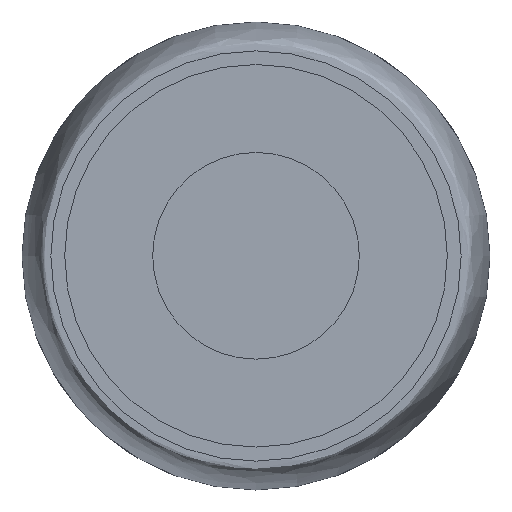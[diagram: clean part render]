
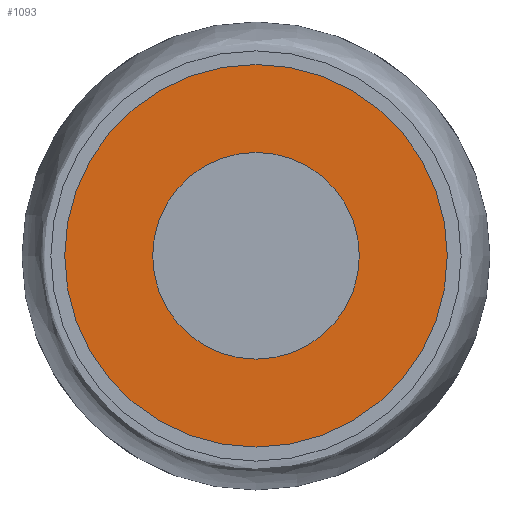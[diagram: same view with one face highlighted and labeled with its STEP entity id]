
A CAD part, front view. The second image highlights one B-rep face of the part: STEP entity #1093.
In plain terms, the highlighted planar face has unit normal (0, -1, 0).
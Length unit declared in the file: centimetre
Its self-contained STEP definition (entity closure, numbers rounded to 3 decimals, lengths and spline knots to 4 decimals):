
#68=FACE_BOUND('',#303,.T.);
#233=FACE_OUTER_BOUND('',#302,.T.);
#302=EDGE_LOOP('',(#991));
#303=EDGE_LOOP('',(#992));
#400=CIRCLE('',#1266,1.325);
#403=CIRCLE('',#1271,2.4525);
#501=VERTEX_POINT('',#2482);
#504=VERTEX_POINT('',#2491);
#662=EDGE_CURVE('',#501,#501,#400,.T.);
#667=EDGE_CURVE('',#504,#504,#403,.T.);
#991=ORIENTED_EDGE('',*,*,#667,.T.);
#992=ORIENTED_EDGE('',*,*,#662,.T.);
#1025=PLANE('',#1272);
#1093=ADVANCED_FACE('',(#233,#68),#1025,.T.);
#1266=AXIS2_PLACEMENT_3D('',#2483,#1635,#1636);
#1271=AXIS2_PLACEMENT_3D('',#2493,#1647,#1648);
#1272=AXIS2_PLACEMENT_3D('',#2494,#1649,#1650);
#1635=DIRECTION('center_axis',(0.,1.,0.));
#1636=DIRECTION('ref_axis',(1.,0.,0.));
#1647=DIRECTION('center_axis',(0.,-1.,0.));
#1648=DIRECTION('ref_axis',(1.,0.,0.));
#1649=DIRECTION('center_axis',(0.,-1.,0.));
#1650=DIRECTION('ref_axis',(-1.,0.,0.));
#2482=CARTESIAN_POINT('',(742.4478,-392.2421,-2.6532));
#2483=CARTESIAN_POINT('Origin',(743.7728,-392.2421,-2.6532));
#2491=CARTESIAN_POINT('',(741.3203,-392.2421,-2.6532));
#2493=CARTESIAN_POINT('Origin',(743.7728,-392.2421,-2.6532));
#2494=CARTESIAN_POINT('Origin',(743.7728,-392.2421,-2.6532));
